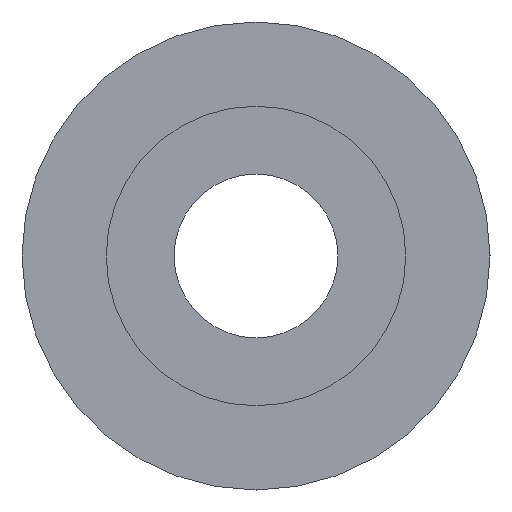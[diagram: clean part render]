
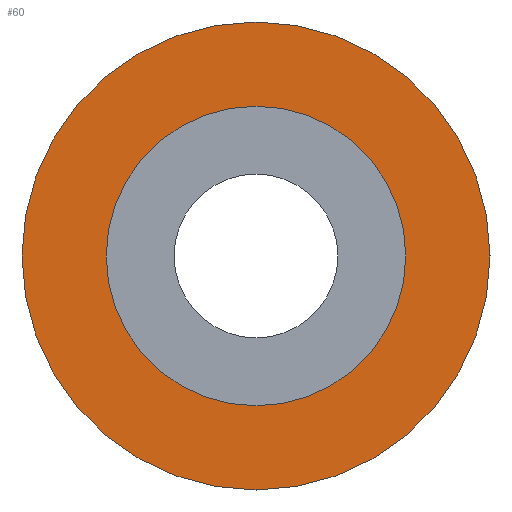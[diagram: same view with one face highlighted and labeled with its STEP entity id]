
A CAD part, front view. The second image highlights one B-rep face of the part: STEP entity #60.
In plain terms, the highlighted planar face has unit normal (0, -1, 0).
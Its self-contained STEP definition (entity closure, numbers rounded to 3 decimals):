
#4 = EDGE_LOOP ( 'NONE', ( #397, #442 ) ) ;
#7 = VERTEX_POINT ( 'NONE', #314 ) ;
#48 = VERTEX_POINT ( 'NONE', #344 ) ;
#55 = AXIS2_PLACEMENT_3D ( 'NONE', #146, #278, #415 ) ;
#60 = ADVANCED_FACE ( 'NONE', ( #186, #311 ), #114, .T. ) ;
#100 = CIRCLE ( 'NONE', #55, 2.5 ) ;
#101 = CIRCLE ( 'NONE', #136, 1.6 ) ;
#102 = EDGE_CURVE ( 'NONE', #376, #48, #101, .T. ) ;
#114 = PLANE ( 'NONE',  #407 ) ;
#136 = AXIS2_PLACEMENT_3D ( 'NONE', #396, #324, #295 ) ;
#142 = CARTESIAN_POINT ( 'NONE',  ( 0., -2., 2.5 ) ) ;
#146 = CARTESIAN_POINT ( 'NONE',  ( 0., -2., 0. ) ) ;
#148 = EDGE_CURVE ( 'NONE', #48, #376, #234, .T. ) ;
#186 = FACE_BOUND ( 'NONE', #4, .T. ) ;
#202 = DIRECTION ( 'NONE',  ( 0., 0., 1. ) ) ;
#221 = EDGE_CURVE ( 'NONE', #333, #7, #300, .T. ) ;
#228 = EDGE_LOOP ( 'NONE', ( #280, #303 ) ) ;
#234 = CIRCLE ( 'NONE', #345, 1.6 ) ;
#236 = DIRECTION ( 'NONE',  ( 0., 1., 0. ) ) ;
#246 = CARTESIAN_POINT ( 'NONE',  ( -2.5, -2., 0. ) ) ;
#253 = DIRECTION ( 'NONE',  ( 0., 0., -1. ) ) ;
#262 = CARTESIAN_POINT ( 'NONE',  ( 0., -2., 0. ) ) ;
#268 = EDGE_CURVE ( 'NONE', #7, #333, #100, .T. ) ;
#278 = DIRECTION ( 'NONE',  ( 0., 1., 0. ) ) ;
#280 = ORIENTED_EDGE ( 'NONE', *, *, #221, .F. ) ;
#295 = DIRECTION ( 'NONE',  ( 0., 0., -1. ) ) ;
#297 = DIRECTION ( 'NONE',  ( 0., 0., -1. ) ) ;
#300 = CIRCLE ( 'NONE', #440, 2.5 ) ;
#303 = ORIENTED_EDGE ( 'NONE', *, *, #268, .F. ) ;
#311 = FACE_OUTER_BOUND ( 'NONE', #228, .T. ) ;
#314 = CARTESIAN_POINT ( 'NONE',  ( 0., -2., -2.5 ) ) ;
#324 = DIRECTION ( 'NONE',  ( 0., -1., 0. ) ) ;
#330 = CARTESIAN_POINT ( 'NONE',  ( 0., -2., 0. ) ) ;
#333 = VERTEX_POINT ( 'NONE', #142 ) ;
#344 = CARTESIAN_POINT ( 'NONE',  ( 0., -2., -1.6 ) ) ;
#345 = AXIS2_PLACEMENT_3D ( 'NONE', #262, #426, #297 ) ;
#376 = VERTEX_POINT ( 'NONE', #392 ) ;
#392 = CARTESIAN_POINT ( 'NONE',  ( 0., -2., 1.6 ) ) ;
#396 = CARTESIAN_POINT ( 'NONE',  ( 0., -2., 0. ) ) ;
#397 = ORIENTED_EDGE ( 'NONE', *, *, #148, .F. ) ;
#407 = AXIS2_PLACEMENT_3D ( 'NONE', #246, #420, #253 ) ;
#415 = DIRECTION ( 'NONE',  ( 0., 0., 1. ) ) ;
#420 = DIRECTION ( 'NONE',  ( 0., -1., 0. ) ) ;
#426 = DIRECTION ( 'NONE',  ( 0., -1., 0. ) ) ;
#440 = AXIS2_PLACEMENT_3D ( 'NONE', #330, #236, #202 ) ;
#442 = ORIENTED_EDGE ( 'NONE', *, *, #102, .F. ) ;
